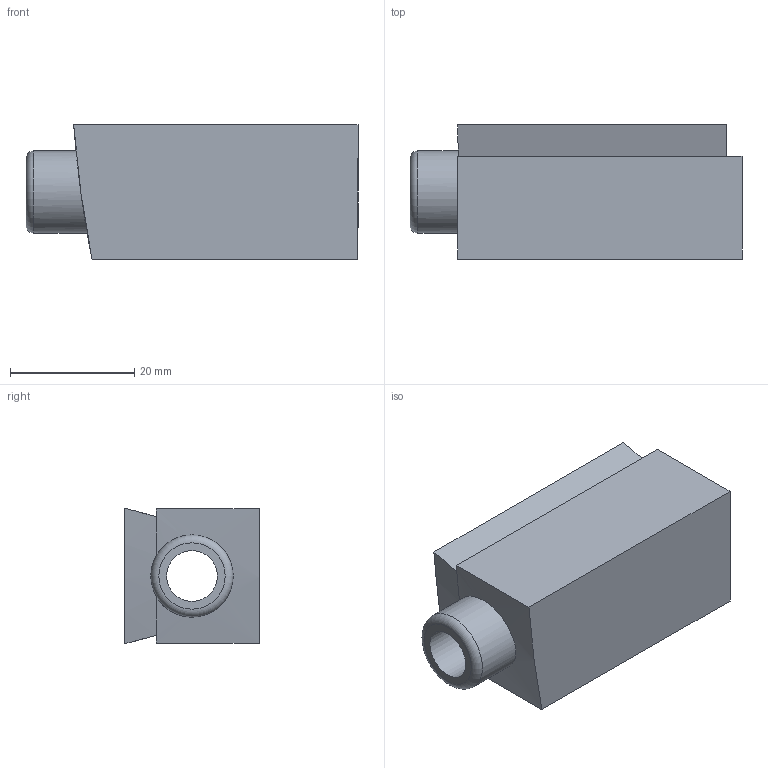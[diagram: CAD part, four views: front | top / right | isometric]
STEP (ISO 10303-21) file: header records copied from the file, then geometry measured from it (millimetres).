
FILE_DESCRIPTION(/* description */ (''),/* implementation_level */ '2;1');
FILE_NAME(/* name */ 'C:\Users\garre\3D Objects\back inside croc axle holder.stp',/* time_stamp */ '2021-09-03T20:52:38-04:00',/* author */ ('garre'),/* organization */ (''),/* preprocessor_version */ 'ST-DEVELOPER v18.1',/* originating_system */ 'Autodesk Inventor 2022',/* authorisation */ '');
FILE_SCHEMA (('AUTOMOTIVE_DESIGN { 1 0 10303 214 3 1 1 }'));
Length unit declared in the file: inch
Products named in the file (1): back inside croc axle holder
Bounding box: 53.34 x 21.59 x 21.77 mm (x, y, z)
Volume: 18610 mm3; surface area: 6456.8 mm2
Topology: 1 solids, 1 shells, 15 faces, 37 edges, 24 vertices
Faces by surface type: plane 10, cylinder 2, bspline 2, torus 1
Full cylindrical faces by diameter (mm): 8.128 x1, 13.208 x1
Entity records: 569 total; most frequent: CARTESIAN_POINT 168, ORIENTED_EDGE 74, DIRECTION 66, EDGE_CURVE 37, VERTEX_POINT 24, AXIS2_PLACEMENT_3D 23, LINE 20, VECTOR 20
